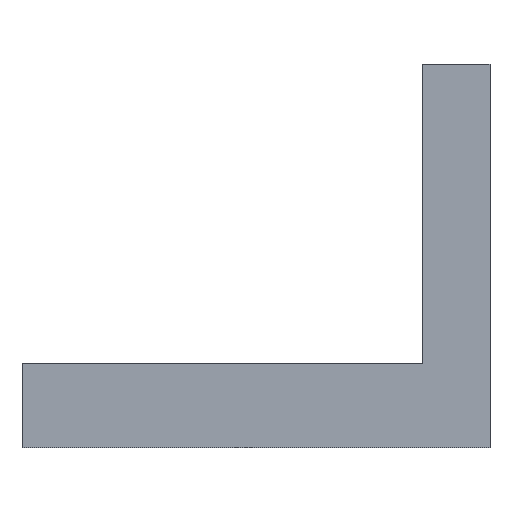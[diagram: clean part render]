
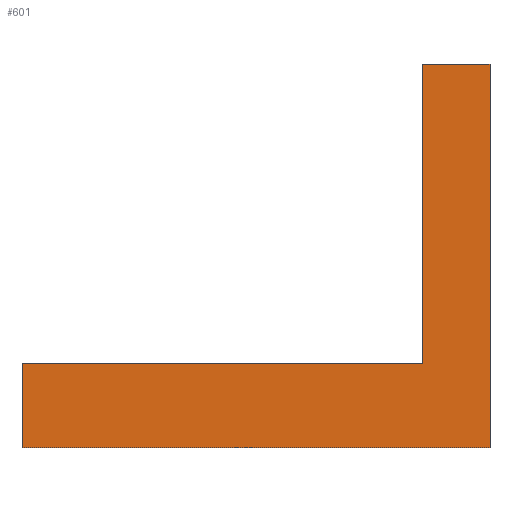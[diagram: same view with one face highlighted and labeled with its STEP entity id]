
A CAD part, front view. The second image highlights one B-rep face of the part: STEP entity #601.
In plain terms, the highlighted planar face has unit normal (0, -1, 0).
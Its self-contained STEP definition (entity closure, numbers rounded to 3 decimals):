
#32 = PLANE('',#33);
#33 = AXIS2_PLACEMENT_3D('',#34,#35,#36);
#34 = CARTESIAN_POINT('',(23.8,0.,22.8));
#35 = DIRECTION('',(1.,0.,0.));
#36 = DIRECTION('',(0.,1.,0.));
#57 = VERTEX_POINT('',#58);
#58 = CARTESIAN_POINT('',(23.8,0.,22.8));
#72 = PLANE('',#73);
#73 = AXIS2_PLACEMENT_3D('',#74,#75,#76);
#74 = CARTESIAN_POINT('',(23.8,0.,22.8));
#75 = DIRECTION('',(0.,0.,-1.));
#76 = DIRECTION('',(0.,1.,0.));
#84 = EDGE_CURVE('',#57,#85,#87,.T.);
#85 = VERTEX_POINT('',#86);
#86 = CARTESIAN_POINT('',(23.8,0.,5.));
#87 = SURFACE_CURVE('',#88,(#92,#99),.PCURVE_S1.);
#88 = LINE('',#89,#90);
#89 = CARTESIAN_POINT('',(23.8,0.,22.8));
#90 = VECTOR('',#91,1.);
#91 = DIRECTION('',(0.,0.,-1.));
#92 = PCURVE('',#32,#93);
#93 = DEFINITIONAL_REPRESENTATION('',(#94),#98);
#94 = LINE('',#95,#96);
#95 = CARTESIAN_POINT('',(0.,0.));
#96 = VECTOR('',#97,1.);
#97 = DIRECTION('',(0.,-1.));
#98 = ( GEOMETRIC_REPRESENTATION_CONTEXT(2) 
PARAMETRIC_REPRESENTATION_CONTEXT() REPRESENTATION_CONTEXT('2D SPACE',''
  ) );
#99 = PCURVE('',#100,#105);
#100 = PLANE('',#101);
#101 = AXIS2_PLACEMENT_3D('',#102,#103,#104);
#102 = CARTESIAN_POINT('',(23.8,0.,22.8));
#103 = DIRECTION('',(0.,1.,0.));
#104 = DIRECTION('',(1.,0.,0.));
#105 = DEFINITIONAL_REPRESENTATION('',(#106),#110);
#106 = LINE('',#107,#108);
#107 = CARTESIAN_POINT('',(0.,0.));
#108 = VECTOR('',#109,1.);
#109 = DIRECTION('',(0.,1.));
#110 = ( GEOMETRIC_REPRESENTATION_CONTEXT(2) 
PARAMETRIC_REPRESENTATION_CONTEXT() REPRESENTATION_CONTEXT('2D SPACE',''
  ) );
#128 = PLANE('',#129);
#129 = AXIS2_PLACEMENT_3D('',#130,#131,#132);
#130 = CARTESIAN_POINT('',(0.,0.,5.));
#131 = DIRECTION('',(0.,0.,-1.));
#132 = DIRECTION('',(0.,1.,0.));
#520 = PLANE('',#521);
#521 = AXIS2_PLACEMENT_3D('',#522,#523,#524);
#522 = CARTESIAN_POINT('',(27.8,0.,22.8));
#523 = DIRECTION('',(1.,0.,0.));
#524 = DIRECTION('',(0.,1.,0.));
#556 = EDGE_CURVE('',#57,#557,#559,.T.);
#557 = VERTEX_POINT('',#558);
#558 = CARTESIAN_POINT('',(27.8,0.,22.8));
#559 = SURFACE_CURVE('',#560,(#564,#571),.PCURVE_S1.);
#560 = LINE('',#561,#562);
#561 = CARTESIAN_POINT('',(23.8,0.,22.8));
#562 = VECTOR('',#563,1.);
#563 = DIRECTION('',(1.,0.,0.));
#564 = PCURVE('',#72,#565);
#565 = DEFINITIONAL_REPRESENTATION('',(#566),#570);
#566 = LINE('',#567,#568);
#567 = CARTESIAN_POINT('',(0.,0.));
#568 = VECTOR('',#569,1.);
#569 = DIRECTION('',(0.,1.));
#570 = ( GEOMETRIC_REPRESENTATION_CONTEXT(2) 
PARAMETRIC_REPRESENTATION_CONTEXT() REPRESENTATION_CONTEXT('2D SPACE',''
  ) );
#571 = PCURVE('',#100,#572);
#572 = DEFINITIONAL_REPRESENTATION('',(#573),#577);
#573 = LINE('',#574,#575);
#574 = CARTESIAN_POINT('',(0.,0.));
#575 = VECTOR('',#576,1.);
#576 = DIRECTION('',(1.,0.));
#577 = ( GEOMETRIC_REPRESENTATION_CONTEXT(2) 
PARAMETRIC_REPRESENTATION_CONTEXT() REPRESENTATION_CONTEXT('2D SPACE',''
  ) );
#601 = ADVANCED_FACE('',(#602),#100,.F.);
#602 = FACE_BOUND('',#603,.F.);
#603 = EDGE_LOOP('',(#604,#605,#606,#629,#657,#685));
#604 = ORIENTED_EDGE('',*,*,#84,.F.);
#605 = ORIENTED_EDGE('',*,*,#556,.T.);
#606 = ORIENTED_EDGE('',*,*,#607,.F.);
#607 = EDGE_CURVE('',#608,#557,#610,.T.);
#608 = VERTEX_POINT('',#609);
#609 = CARTESIAN_POINT('',(27.8,0.,0.));
#610 = SURFACE_CURVE('',#611,(#615,#622),.PCURVE_S1.);
#611 = LINE('',#612,#613);
#612 = CARTESIAN_POINT('',(27.8,0.,0.));
#613 = VECTOR('',#614,1.);
#614 = DIRECTION('',(0.,0.,1.));
#615 = PCURVE('',#100,#616);
#616 = DEFINITIONAL_REPRESENTATION('',(#617),#621);
#617 = LINE('',#618,#619);
#618 = CARTESIAN_POINT('',(4.,22.8));
#619 = VECTOR('',#620,1.);
#620 = DIRECTION('',(0.,-1.));
#621 = ( GEOMETRIC_REPRESENTATION_CONTEXT(2) 
PARAMETRIC_REPRESENTATION_CONTEXT() REPRESENTATION_CONTEXT('2D SPACE',''
  ) );
#622 = PCURVE('',#520,#623);
#623 = DEFINITIONAL_REPRESENTATION('',(#624),#628);
#624 = LINE('',#625,#626);
#625 = CARTESIAN_POINT('',(0.,-22.8));
#626 = VECTOR('',#627,1.);
#627 = DIRECTION('',(0.,1.));
#628 = ( GEOMETRIC_REPRESENTATION_CONTEXT(2) 
PARAMETRIC_REPRESENTATION_CONTEXT() REPRESENTATION_CONTEXT('2D SPACE',''
  ) );
#629 = ORIENTED_EDGE('',*,*,#630,.F.);
#630 = EDGE_CURVE('',#631,#608,#633,.T.);
#631 = VERTEX_POINT('',#632);
#632 = CARTESIAN_POINT('',(0.,0.,0.));
#633 = SURFACE_CURVE('',#634,(#638,#645),.PCURVE_S1.);
#634 = LINE('',#635,#636);
#635 = CARTESIAN_POINT('',(0.,0.,0.));
#636 = VECTOR('',#637,1.);
#637 = DIRECTION('',(1.,0.,0.));
#638 = PCURVE('',#100,#639);
#639 = DEFINITIONAL_REPRESENTATION('',(#640),#644);
#640 = LINE('',#641,#642);
#641 = CARTESIAN_POINT('',(-23.8,22.8));
#642 = VECTOR('',#643,1.);
#643 = DIRECTION('',(1.,0.));
#644 = ( GEOMETRIC_REPRESENTATION_CONTEXT(2) 
PARAMETRIC_REPRESENTATION_CONTEXT() REPRESENTATION_CONTEXT('2D SPACE',''
  ) );
#645 = PCURVE('',#646,#651);
#646 = PLANE('',#647);
#647 = AXIS2_PLACEMENT_3D('',#648,#649,#650);
#648 = CARTESIAN_POINT('',(0.,0.,0.));
#649 = DIRECTION('',(0.,0.,-1.));
#650 = DIRECTION('',(0.,1.,0.));
#651 = DEFINITIONAL_REPRESENTATION('',(#652),#656);
#652 = LINE('',#653,#654);
#653 = CARTESIAN_POINT('',(0.,0.));
#654 = VECTOR('',#655,1.);
#655 = DIRECTION('',(0.,1.));
#656 = ( GEOMETRIC_REPRESENTATION_CONTEXT(2) 
PARAMETRIC_REPRESENTATION_CONTEXT() REPRESENTATION_CONTEXT('2D SPACE',''
  ) );
#657 = ORIENTED_EDGE('',*,*,#658,.F.);
#658 = EDGE_CURVE('',#659,#631,#661,.T.);
#659 = VERTEX_POINT('',#660);
#660 = CARTESIAN_POINT('',(0.,0.,5.));
#661 = SURFACE_CURVE('',#662,(#666,#673),.PCURVE_S1.);
#662 = LINE('',#663,#664);
#663 = CARTESIAN_POINT('',(0.,0.,5.));
#664 = VECTOR('',#665,1.);
#665 = DIRECTION('',(0.,0.,-1.));
#666 = PCURVE('',#100,#667);
#667 = DEFINITIONAL_REPRESENTATION('',(#668),#672);
#668 = LINE('',#669,#670);
#669 = CARTESIAN_POINT('',(-23.8,17.8));
#670 = VECTOR('',#671,1.);
#671 = DIRECTION('',(0.,1.));
#672 = ( GEOMETRIC_REPRESENTATION_CONTEXT(2) 
PARAMETRIC_REPRESENTATION_CONTEXT() REPRESENTATION_CONTEXT('2D SPACE',''
  ) );
#673 = PCURVE('',#674,#679);
#674 = PLANE('',#675);
#675 = AXIS2_PLACEMENT_3D('',#676,#677,#678);
#676 = CARTESIAN_POINT('',(0.,0.,5.));
#677 = DIRECTION('',(1.,0.,0.));
#678 = DIRECTION('',(0.,1.,0.));
#679 = DEFINITIONAL_REPRESENTATION('',(#680),#684);
#680 = LINE('',#681,#682);
#681 = CARTESIAN_POINT('',(0.,0.));
#682 = VECTOR('',#683,1.);
#683 = DIRECTION('',(0.,-1.));
#684 = ( GEOMETRIC_REPRESENTATION_CONTEXT(2) 
PARAMETRIC_REPRESENTATION_CONTEXT() REPRESENTATION_CONTEXT('2D SPACE',''
  ) );
#685 = ORIENTED_EDGE('',*,*,#686,.T.);
#686 = EDGE_CURVE('',#659,#85,#687,.T.);
#687 = SURFACE_CURVE('',#688,(#692,#699),.PCURVE_S1.);
#688 = LINE('',#689,#690);
#689 = CARTESIAN_POINT('',(0.,0.,5.));
#690 = VECTOR('',#691,1.);
#691 = DIRECTION('',(1.,0.,0.));
#692 = PCURVE('',#100,#693);
#693 = DEFINITIONAL_REPRESENTATION('',(#694),#698);
#694 = LINE('',#695,#696);
#695 = CARTESIAN_POINT('',(-23.8,17.8));
#696 = VECTOR('',#697,1.);
#697 = DIRECTION('',(1.,0.));
#698 = ( GEOMETRIC_REPRESENTATION_CONTEXT(2) 
PARAMETRIC_REPRESENTATION_CONTEXT() REPRESENTATION_CONTEXT('2D SPACE',''
  ) );
#699 = PCURVE('',#128,#700);
#700 = DEFINITIONAL_REPRESENTATION('',(#701),#705);
#701 = LINE('',#702,#703);
#702 = CARTESIAN_POINT('',(0.,0.));
#703 = VECTOR('',#704,1.);
#704 = DIRECTION('',(0.,1.));
#705 = ( GEOMETRIC_REPRESENTATION_CONTEXT(2) 
PARAMETRIC_REPRESENTATION_CONTEXT() REPRESENTATION_CONTEXT('2D SPACE',''
  ) );
